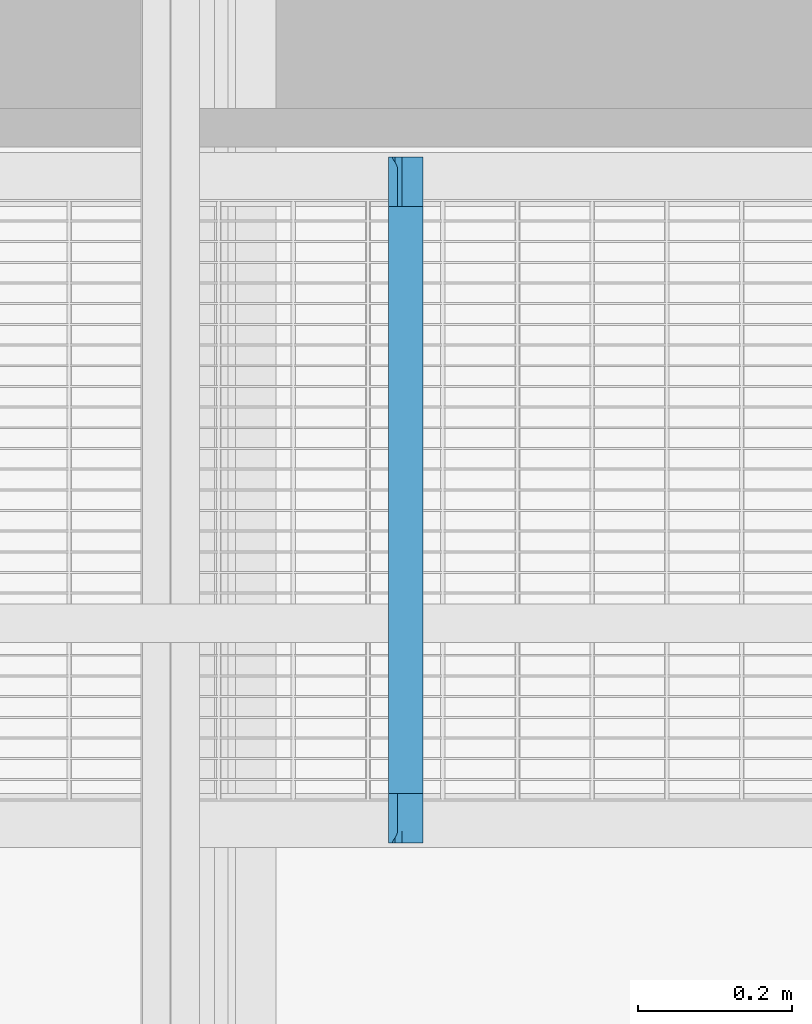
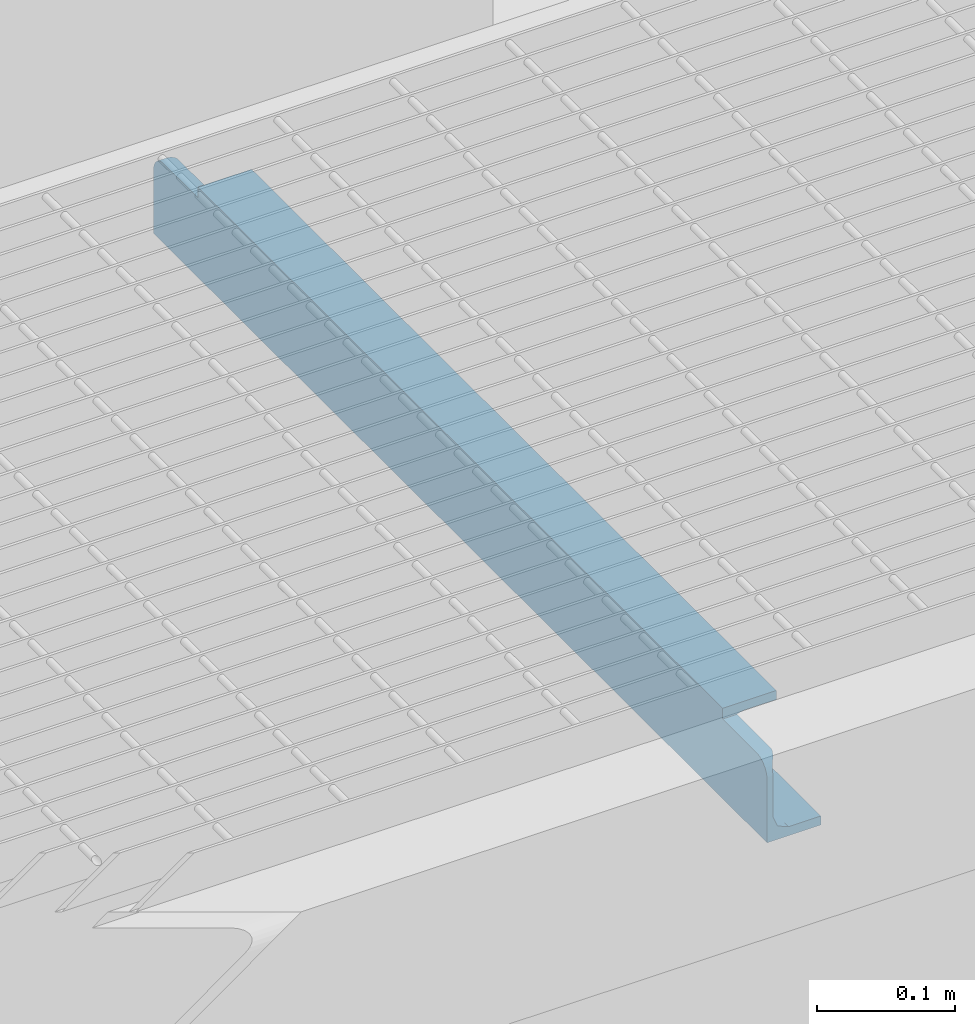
# One storey, part 53 of 75: 1 beam.
"""IFC2X3 building model written with IfcOpenShell, lengths in metres."""

from ifc_helpers import new_model, entity, si_unit, converted_unit, derived_unit, direction, frame, origin, place, context, subcontext, project, spatial, faceted_brep, material, type_object, element, save


model = new_model("IFC2X3")

# Units and contexts
model_context = context("Model", 3, precision=1e-05, world=origin(), true_north=direction((6.12303176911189e-17, 1.0)))
body_context = subcontext(model_context, "Body", "Model", "MODEL_VIEW")
ifc_project = project(units=[si_unit("LENGTHUNIT", "METRE"), si_unit("AREAUNIT", "SQUARE_METRE"), si_unit("VOLUMEUNIT", "CUBIC_METRE"), converted_unit("PLANEANGLEUNIT", "DEGREE", entity("IfcRatioMeasure", 0.0174532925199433), si_unit("PLANEANGLEUNIT", "RADIAN"), dimensions=[0, 0, 0, 0, 0, 0, 0]), si_unit("MASSUNIT", "GRAM", prefix="KILO"), derived_unit("MASSDENSITYUNIT", [(si_unit("MASSUNIT", "GRAM", prefix="KILO"), 1), (si_unit("LENGTHUNIT", "METRE"), -3)]), derived_unit("MOMENTOFINERTIAUNIT", [(si_unit("LENGTHUNIT", "METRE"), 4)]), si_unit("TIMEUNIT", "SECOND"), si_unit("FREQUENCYUNIT", "HERTZ"), si_unit("THERMODYNAMICTEMPERATUREUNIT", "DEGREE_CELSIUS"), derived_unit("THERMALTRANSMITTANCEUNIT", [(si_unit("MASSUNIT", "GRAM", prefix="KILO"), 1), (si_unit("THERMODYNAMICTEMPERATUREUNIT", "KELVIN"), -1), (si_unit("TIMEUNIT", "SECOND"), -3)]), derived_unit("VOLUMETRICFLOWRATEUNIT", [(si_unit("LENGTHUNIT", "METRE"), 3), (si_unit("TIMEUNIT", "SECOND"), -1)]), si_unit("ELECTRICCURRENTUNIT", "AMPERE"), si_unit("ELECTRICVOLTAGEUNIT", "VOLT"), si_unit("POWERUNIT", "WATT"), si_unit("FORCEUNIT", "NEWTON", prefix="KILO"), si_unit("ILLUMINANCEUNIT", "LUX"), si_unit("LUMINOUSFLUXUNIT", "LUMEN"), si_unit("LUMINOUSINTENSITYUNIT", "CANDELA"), derived_unit("USERDEFINED", [(si_unit("MASSUNIT", "GRAM", prefix="KILO"), -1), (si_unit("LENGTHUNIT", "METRE"), -2), (si_unit("TIMEUNIT", "SECOND"), 3), (si_unit("LUMINOUSFLUXUNIT", "LUMEN"), 1)]), derived_unit("LINEARVELOCITYUNIT", [(si_unit("LENGTHUNIT", "METRE"), 1), (si_unit("TIMEUNIT", "SECOND"), -1)]), si_unit("PRESSUREUNIT", "PASCAL"), derived_unit("USERDEFINED", [(si_unit("LENGTHUNIT", "METRE"), -2), (si_unit("MASSUNIT", "GRAM", prefix="KILO"), 1), (si_unit("TIMEUNIT", "SECOND"), -2)]), derived_unit("LINEARFORCEUNIT", [(si_unit("MASSUNIT", "GRAM", prefix="KILO"), 1), (si_unit("LENGTHUNIT", "METRE"), 1), (si_unit("TIMEUNIT", "SECOND"), -2), (si_unit("LENGTHUNIT", "METRE"), -1)]), derived_unit("PLANARFORCEUNIT", [(si_unit("MASSUNIT", "GRAM", prefix="KILO"), 1), (si_unit("LENGTHUNIT", "METRE"), 1), (si_unit("TIMEUNIT", "SECOND"), -2), (si_unit("LENGTHUNIT", "METRE"), -2)])], contexts=[model_context])

# Site, building, storey
site_placement = place(None, origin())
site = spatial("IfcSite", under=ifc_project, at=site_placement, Name="Superficie", CompositionType="ELEMENT")
building_placement = place(site_placement, origin())
building = spatial("IfcBuilding", under=site, at=building_placement, Name="Telegestiones", CompositionType="ELEMENT")
storey_placement = place(building_placement, origin())
storey = spatial("IfcBuildingStorey", under=building, at=storey_placement, Name="Nivel 0_NPT", CompositionType="ELEMENT", Elevation=0.0)

# Beam
ifc_material = material(Name="Metal - Acero - 345 MPa")
beam_type = type_object("IfcBeamType", Name="U-Canales de ala paralela:UAP80", PredefinedType="NOTDEFINED")
beam_placement = place(storey_placement, frame((13.8142897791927, 12.7898119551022, 17.78), z_axis=(0.0, 0.0, 1.0), x_axis=(0.0, -1.0, 0.0)))
element("IfcBeam", 1, at=beam_placement, inside=storey, type_object=beam_type, material=ifc_material, Name="U-Canales de ala paralela:UAP80", ObjectType="U-Canales de ala paralela:UAP80", context=body_context, shape_type="Brep", body=[
    faceted_brep([(-0.00159527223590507, 0.0450000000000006, 0.0), (-0.00159527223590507, 0.0450000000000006, 0.00799999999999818), (-0.00159527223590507, 0.0180000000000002, 0.00799999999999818), (-0.00159527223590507, 0.0140667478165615, 0.00962920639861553), (-0.00159527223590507, 0.0114371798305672, 0.0107184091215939), (-0.00159527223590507, 0.00880761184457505, 0.0118076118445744), (-0.00159527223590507, 0.00785570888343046, 0.014105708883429), (-0.00159527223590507, 0.00690380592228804, 0.0164038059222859), (-0.00159527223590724, 0.00595190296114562, 0.0187019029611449), (-0.00159527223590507, 0.00500000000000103, 0.0209999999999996), (-0.00159527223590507, 0.00500000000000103, 0.0579413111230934), (-0.00159527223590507, 0.0, 0.0579413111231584), (-0.00159527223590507, 0.0, 0.0), (-0.890595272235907, 0.0180000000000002, 0.00799999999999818), (-0.890595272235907, 0.0450000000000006, 0.00799999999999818), (-0.890595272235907, 0.0450000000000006, 0.0), (-0.890595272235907, 0.0, 0.0), (-0.890595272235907, 0.0, 0.0579413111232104), (-0.890595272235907, 0.00500000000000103, 0.0579413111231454), (-0.890595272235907, 0.00500000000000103, 0.0209999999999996), (-0.890595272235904, 0.00581460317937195, 0.0190333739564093), (-0.890595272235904, 0.00690380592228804, 0.0164038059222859), (-0.890595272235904, 0.00785570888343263, 0.0141057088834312), (-0.890595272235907, 0.00880761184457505, 0.0118076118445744), (-0.890595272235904, 0.0111057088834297, 0.0108557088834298), (-0.890595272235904, 0.0134038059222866, 0.00990380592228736), (-0.890595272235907, 0.0160333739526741, 0.00881460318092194), (-0.826295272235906, 0.0, 0.0799999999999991), (-0.0658952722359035, 0.0, 0.0799999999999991), (-0.0658952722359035, 0.0450000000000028, 0.0799999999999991), (-0.826295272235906, 0.0450000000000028, 0.0799999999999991), (-0.0658952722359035, 0.0450000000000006, 0.0719999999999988), (-0.826295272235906, 0.0450000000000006, 0.0719999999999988), (-0.0658952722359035, 0.0180000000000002, 0.0719999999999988), (-0.128842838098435, 0.0180000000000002, 0.0719999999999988), (-0.194304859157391, 0.0180000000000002, 0.0719999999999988), (-0.322714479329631, 0.0180000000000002, 0.0719999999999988), (-0.448609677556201, 0.0180000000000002, 0.072000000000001), (-0.57450487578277, 0.0180000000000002, 0.072000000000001), (-0.700400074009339, 0.0180000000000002, 0.0719999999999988), (-0.763347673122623, 0.0180000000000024, 0.0719999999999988), (-0.826295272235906, 0.0180000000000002, 0.0719999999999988), (-0.125338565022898, 0.00873473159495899, 0.0681189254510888), (-0.00990097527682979, 0.00971902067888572, 0.069021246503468), (-0.0072220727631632, 0.00805140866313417, 0.0673681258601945), (-0.544296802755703, 0.00667192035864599, 0.0653776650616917), (-0.463738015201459, 0.00590908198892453, 0.0637759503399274), (-0.537050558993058, 0.00560250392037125, 0.0629117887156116), (-0.792641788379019, 0.00525335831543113, 0.0615540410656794), (-0.794133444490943, 0.00500000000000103, 0.0589999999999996), (-0.890381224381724, 0.00500000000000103, 0.0589999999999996), (-0.0658952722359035, 0.0119378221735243, 0.0705000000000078), (-0.138679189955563, 0.0108749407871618, 0.0698735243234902), (-0.289684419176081, 0.00818591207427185, 0.0675254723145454), (-0.235689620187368, 0.00983678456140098, 0.0691174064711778), (-0.221438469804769, 0.00711297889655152, 0.0661044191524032), (-0.828358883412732, 0.00588467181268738, 0.0637136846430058), (-0.754190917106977, 0.0058648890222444, 0.063662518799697), (-0.122570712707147, 0.00586898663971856, 0.0636731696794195), (-0.00489743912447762, 0.00653775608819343, 0.0651332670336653), (-0.00303111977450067, 0.00542889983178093, 0.0623117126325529), (-0.139747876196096, 0.0133736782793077, 0.0711489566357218), (-0.0658952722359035, 0.0148775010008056, 0.0716194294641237), (-0.826295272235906, 0.0148775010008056, 0.0716194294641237), (-0.725006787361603, 0.007054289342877, 0.0660136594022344), (-0.806159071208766, 0.007190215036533, 0.066221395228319), (-0.751188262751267, 0.00871967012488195, 0.0681035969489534), (-0.821741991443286, 0.00878771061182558, 0.0681724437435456), (-0.73187387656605, 0.0157137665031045, 0.0717973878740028), (-0.656388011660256, 0.0158751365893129, 0.0718251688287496), (-0.887293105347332, 0.00653775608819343, 0.0651332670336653), (-0.884968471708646, 0.00805140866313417, 0.0673681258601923), (-0.153427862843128, 0.00681728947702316, 0.0656292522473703), (-0.0851009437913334, 0.0070865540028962, 0.0660637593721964), (-0.223870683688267, 0.00557806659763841, 0.0628334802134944), (-0.324805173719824, 0.006859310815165, 0.0656996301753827), (-0.889159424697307, 0.00542889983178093, 0.0623117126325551), (-0.0163952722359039, 0.01193782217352, 0.0705000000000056), (-0.0129474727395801, 0.0112305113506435, 0.0700983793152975), (-0.875795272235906, 0.0119378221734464, 0.0704999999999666), (-0.826295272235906, 0.0119378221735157, 0.0705000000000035), (-0.879243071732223, 0.0112305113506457, 0.0700983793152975), (-0.399380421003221, 0.00536884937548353, 0.0620747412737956), (-0.392844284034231, 0.00621995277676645, 0.0644982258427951), (-0.226457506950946, 0.0133736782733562, 0.0711489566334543), (-0.161573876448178, 0.0157225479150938, 0.0717989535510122), (-0.753454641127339, 0.0133736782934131, 0.0711489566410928), (-0.667605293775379, 0.0133736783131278, 0.0711489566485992), (-0.710529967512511, 0.0108989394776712, 0.069889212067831), (-0.882289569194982, 0.00971902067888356, 0.0690212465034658), (-0.390878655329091, 0.0147556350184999, 0.0715886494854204), (-0.511557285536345, 0.0147219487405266, 0.0715799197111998), (-0.447031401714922, 0.0116878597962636, 0.0703647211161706), (-0.155170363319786, 0.00522625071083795, 0.0614148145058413), (-0.0800317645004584, 0.00520855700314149, 0.0613192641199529), (-0.127704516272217, 0.00500000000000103, 0.0589999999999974), (-0.717894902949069, 0.00523967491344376, 0.0614847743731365), (-0.664463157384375, 0.00890351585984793, 0.0682873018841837), (-0.313627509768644, 0.0152996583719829, 0.0717164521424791), (-0.236434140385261, 0.0158580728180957, 0.0718223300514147), (-0.566912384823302, 0.011307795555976, 0.0701451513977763), (-0.449725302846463, 0.007164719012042, 0.066183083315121), (-0.330812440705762, 0.01176120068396, 0.0704051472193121), (-0.00180932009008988, 0.00500000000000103, 0.0589999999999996), (-0.374471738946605, 0.00795566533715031, 0.0672529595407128), (-0.339661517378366, 0.00960203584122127, 0.0689234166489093), (-0.495596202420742, 0.00856943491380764, 0.0679478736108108), (-0.419471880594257, 0.00955595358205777, 0.0688842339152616), (-0.591250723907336, 0.0142535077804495, 0.0714484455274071), (-0.637492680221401, 0.0107328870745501, 0.0697791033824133), (-0.580926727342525, 0.00847032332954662, 0.0678422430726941), (-0.614751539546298, 0.00554163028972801, 0.0627133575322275), (-0.479182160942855, 0.00521908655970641, 0.0613766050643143), (-0.636794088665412, 0.00709380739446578, 0.0660749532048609), (-0.601637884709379, 0.00500000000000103, 0.0589999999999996), (-0.697885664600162, 0.00500000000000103, 0.0589999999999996), (-0.682036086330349, 0.00583156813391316, 0.0635748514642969), (-0.505390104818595, 0.00500000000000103, 0.0589999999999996), (-0.327009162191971, 0.00576169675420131, 0.0633845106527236), (-0.253599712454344, 0.00500000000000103, 0.0589999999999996), (-0.379494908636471, 0.00500000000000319, 0.0589999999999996), (-0.890497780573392, 0.00500000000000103, 0.058472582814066), (-0.00169276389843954, 0.00500000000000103, 0.0584725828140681), (-0.127490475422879, 0.00499999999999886, 0.0209999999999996), (-0.253385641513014, 0.00500000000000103, 0.0209999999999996), (-0.349740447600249, 0.00500000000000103, 0.0209999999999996), (-0.446095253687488, 0.00500000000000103, 0.0209999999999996), (-0.557220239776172, 0.00500000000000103, 0.0209999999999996), (-0.668345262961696, 0.00499999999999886, 0.0209999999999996), (-0.764700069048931, 0.00499999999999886, 0.0209999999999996), (-0.0794870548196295, 0.00972190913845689, 0.0109763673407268), (-0.435997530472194, 0.00556213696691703, 0.0172185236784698), (-0.373294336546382, 0.00522987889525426, 0.0185660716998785), (-0.639580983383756, 0.0053531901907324, 0.0179903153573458), (-0.63263272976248, 0.00637757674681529, 0.0151759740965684), (-0.71652267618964, 0.00574745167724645, 0.0166554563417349), (-0.449211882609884, 0.012354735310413, 0.00928970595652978), (-0.320388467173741, 0.0113965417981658, 0.00980203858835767), (-0.338837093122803, 0.0147439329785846, 0.00841437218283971), (-0.524503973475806, 0.0144490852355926, 0.00849436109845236), (-0.512909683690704, 0.0180000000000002, 0.00799999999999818), (-0.601869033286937, 0.0154448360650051, 0.00825358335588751), (-0.403832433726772, 0.00939162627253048, 0.011258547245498), (-0.673005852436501, 0.0104857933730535, 0.0103916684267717), (-0.573219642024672, 0.0105107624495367, 0.0103740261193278), (-0.608382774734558, 0.0127204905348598, 0.00912032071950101), (-0.55722027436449, 0.00560622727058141, 0.0170764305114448), (-0.300537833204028, 0.00846054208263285, 0.0121683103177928), (-0.726955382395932, 0.0139509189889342, 0.00864666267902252), (-0.764700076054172, 0.0180000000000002, 0.00800000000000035), (-0.813619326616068, 0.0144028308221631, 0.00850758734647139), (-0.207094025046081, 0.00538630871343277, 0.0178544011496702), (-0.301563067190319, 0.00537533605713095, 0.017898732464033), (-0.349740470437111, 0.00647967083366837, 0.0149765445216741), (-0.150052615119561, 0.0110865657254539, 0.00999071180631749), (-0.0758239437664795, 0.0123642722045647, 0.00928511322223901), (-0.153439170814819, 0.00630537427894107, 0.0153223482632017), (-0.088095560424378, 0.00767465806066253, 0.0131014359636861), (-0.183268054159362, 0.0083334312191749, 0.0123076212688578), (-0.2360593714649, 0.0108404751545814, 0.0101491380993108), (-0.118743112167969, 0.00535692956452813, 0.0179746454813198), (-0.0782307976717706, 0.00607386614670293, 0.0158262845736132), (-0.251391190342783, 0.0134664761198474, 0.00881611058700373), (-0.0763306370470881, 0.0152252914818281, 0.00829956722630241), (-0.160897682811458, 0.0144821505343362, 0.00848501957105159), (-0.127490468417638, 0.0180000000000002, 0.00800000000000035), (-0.194304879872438, 0.0180000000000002, 0.00799999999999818), (-0.290659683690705, 0.0180000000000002, 0.00799999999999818), (-0.387014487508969, 0.0180000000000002, 0.00800000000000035), (-0.27464879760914, 0.0156603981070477, 0.00821226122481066), (-0.428012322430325, 0.0152285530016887, 0.00829885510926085), (-0.512909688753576, 0.00904802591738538, 0.0115733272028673), (-0.544443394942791, 0.00701878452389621, 0.0140420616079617), (-0.607082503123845, 0.00857249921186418, 0.0120488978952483), (-0.785766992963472, 0.00998354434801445, 0.0107659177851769), (-0.700833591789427, 0.00807841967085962, 0.0125998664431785), (-0.638804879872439, 0.0180000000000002, 0.00799999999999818), (-0.802846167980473, 0.00747715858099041, 0.0133665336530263), (-0.807175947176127, 0.00550758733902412, 0.0174028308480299), (-0.447339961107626, 0.00719760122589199, 0.0137675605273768), (-0.251589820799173, 0.00639123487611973, 0.0151487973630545), (-0.369128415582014, 0.00783049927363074, 0.0129017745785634), (-0.698574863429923, 0.00670885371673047, 0.0145571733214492), (-0.821923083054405, 0.0119518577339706, 0.00949261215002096), (-0.0163952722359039, 0.0, 0.0705000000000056), (-0.0658952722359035, 0.0, 0.0705000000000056), (-0.826295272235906, 0.0, 0.0705000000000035), (-0.875795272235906, 0.0, 0.0705000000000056), (-0.879281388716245, 0.0, 0.0700892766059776), (-0.882576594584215, 0.0, 0.0688795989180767), (-0.885500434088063, 0.0, 0.0669372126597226), (-0.887892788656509, 0.0, 0.0643684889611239), (-0.88962264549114, 0.0, 0.0613140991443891), (-0.00256789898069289, 0.0, 0.0613140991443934), (-0.00429775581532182, 0.0, 0.0643684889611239), (-0.00669011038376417, 0.0, 0.0669372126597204), (-0.00961394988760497, 0.0, 0.0688795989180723), (-0.0129091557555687, 0.0, 0.0700892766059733)], [[[0, 1, 2, 3, 4, 5, 6, 7, 8, 9, 10, 11, 12]], [[13, 14, 15, 16, 17, 18, 19, 20, 21, 22, 23, 24, 25, 26]], [[27, 28, 29, 30]], [[30, 29, 31, 32]], [[14, 1, 0, 15]], [[32, 31, 33, 34, 35, 36, 37, 38, 39, 40, 41]], [[42, 43, 44]], [[45, 46, 47]], [[48, 49, 50]], [[51, 42, 52]], [[42, 51, 43]], [[53, 54, 55]], [[56, 57, 48]], [[58, 59, 60]], [[51, 61, 62]], [[34, 33, 62]], [[41, 40, 63]], [[64, 65, 66]], [[66, 65, 67]], [[42, 55, 54]], [[68, 39, 69]], [[65, 70, 71]], [[68, 40, 39]], [[72, 73, 58]], [[74, 75, 55]], [[70, 56, 76]], [[77, 78, 51]], [[79, 80, 81]], [[82, 46, 83]], [[52, 61, 51]], [[84, 85, 61]], [[44, 73, 42]], [[86, 87, 88]], [[86, 80, 63]], [[80, 89, 81]], [[37, 36, 90]], [[58, 73, 59]], [[71, 89, 67]], [[91, 90, 92]], [[93, 94, 95]], [[80, 67, 89]], [[48, 57, 96]], [[78, 43, 51]], [[88, 97, 66]], [[98, 36, 99]], [[58, 60, 94]], [[91, 92, 100]], [[46, 101, 83]], [[70, 65, 56]], [[99, 85, 84]], [[57, 65, 64]], [[71, 67, 65]], [[66, 67, 80]], [[54, 102, 84]], [[48, 96, 49]], [[103, 94, 60]], [[53, 104, 105]], [[106, 100, 92]], [[55, 75, 53]], [[92, 90, 102]], [[102, 105, 107]], [[69, 38, 108]], [[38, 37, 91]], [[100, 108, 91]], [[109, 88, 87]], [[105, 104, 107]], [[110, 109, 100]], [[47, 111, 45]], [[45, 110, 106]], [[112, 46, 82]], [[62, 85, 34]], [[54, 84, 52]], [[66, 80, 88]], [[86, 63, 68]], [[86, 88, 80]], [[66, 97, 64]], [[113, 97, 110]], [[97, 88, 109]], [[113, 110, 45]], [[106, 110, 100]], [[114, 115, 111]], [[101, 46, 45]], [[45, 111, 113]], [[57, 116, 96]], [[117, 114, 47]], [[98, 99, 84]], [[37, 90, 91]], [[48, 50, 76]], [[72, 58, 74]], [[61, 52, 84]], [[52, 42, 54]], [[57, 64, 116]], [[113, 64, 97]], [[35, 34, 85]], [[99, 35, 85]], [[61, 85, 62]], [[99, 36, 35]], [[90, 36, 98]], [[68, 69, 87]], [[40, 68, 63]], [[86, 68, 87]], [[87, 69, 108]], [[69, 39, 38]], [[87, 108, 100]], [[91, 108, 38]], [[112, 47, 46]], [[118, 119, 120]], [[57, 56, 65]], [[56, 48, 76]], [[115, 49, 96]], [[96, 111, 115]], [[111, 96, 116]], [[116, 113, 111]], [[113, 116, 64]], [[97, 109, 110]], [[100, 109, 87]], [[74, 119, 118]], [[95, 119, 93]], [[111, 47, 114]], [[117, 47, 112]], [[112, 120, 117]], [[83, 118, 82]], [[82, 120, 112]], [[82, 118, 120]], [[118, 83, 75]], [[101, 107, 104]], [[83, 101, 104]], [[106, 101, 45]], [[59, 73, 44]], [[55, 42, 72]], [[73, 72, 42]], [[55, 72, 74]], [[58, 94, 93]], [[95, 94, 103]], [[93, 74, 58]], [[74, 93, 119]], [[102, 54, 105]], [[104, 53, 75]], [[53, 105, 54]], [[92, 102, 107]], [[107, 106, 92]], [[106, 107, 101]], [[104, 75, 83]], [[74, 118, 75]], [[98, 102, 90]], [[102, 98, 84]], [[19, 18, 121, 50, 49, 115, 114, 117, 120, 119, 95, 103, 122, 10, 9, 123, 124, 125, 126, 127, 128, 129]], [[4, 130, 5]], [[131, 126, 132]], [[133, 134, 135]], [[136, 137, 138]], [[139, 140, 141]], [[142, 137, 136]], [[143, 144, 145]], [[127, 146, 133]], [[137, 142, 147]], [[148, 149, 150]], [[124, 123, 151]], [[152, 153, 132]], [[154, 130, 155]], [[156, 157, 158]], [[137, 147, 159]], [[160, 161, 156]], [[162, 138, 137]], [[162, 137, 159]], [[163, 3, 2]], [[154, 162, 159]], [[3, 163, 155]], [[164, 165, 166]], [[167, 168, 138]], [[166, 169, 164]], [[164, 169, 162]], [[170, 139, 136]], [[136, 144, 171]], [[138, 170, 136]], [[168, 170, 138]], [[172, 171, 173]], [[145, 148, 143]], [[172, 146, 131]], [[128, 135, 129]], [[143, 174, 175]], [[141, 176, 148]], [[174, 23, 177]], [[129, 178, 20]], [[21, 178, 177]], [[20, 178, 21]], [[179, 171, 172]], [[172, 134, 146]], [[142, 171, 179]], [[138, 162, 169]], [[164, 162, 154]], [[159, 158, 154]], [[158, 147, 180]], [[158, 159, 147]], [[181, 142, 179]], [[5, 130, 157]], [[180, 156, 158]], [[147, 142, 181]], [[171, 142, 136]], [[153, 179, 131]], [[172, 131, 179]], [[125, 124, 152]], [[126, 131, 146]], [[180, 152, 151]], [[125, 152, 132]], [[153, 152, 180]], [[153, 180, 147]], [[160, 156, 151]], [[156, 180, 151]], [[161, 6, 157]], [[151, 152, 124]], [[8, 160, 123]], [[123, 160, 151]], [[161, 8, 7, 6]], [[134, 133, 146]], [[173, 134, 172]], [[134, 182, 135]], [[175, 134, 173]], [[175, 173, 143]], [[173, 171, 144]], [[174, 177, 175]], [[176, 149, 148]], [[143, 148, 174]], [[26, 150, 149]], [[183, 24, 174]], [[150, 25, 183]], [[182, 175, 177]], [[22, 21, 177, 23]], [[154, 158, 130]], [[127, 126, 146]], [[133, 135, 128]], [[156, 161, 157]], [[8, 123, 9]], [[20, 19, 129]], [[157, 130, 158]], [[4, 3, 155]], [[155, 163, 164]], [[4, 155, 130]], [[154, 155, 164]], [[163, 165, 164]], [[165, 163, 2]], [[139, 144, 136]], [[170, 168, 140]], [[145, 139, 141]], [[139, 170, 140]], [[173, 144, 143]], [[139, 145, 144]], [[145, 141, 148]], [[176, 141, 140]], [[25, 150, 26]], [[149, 13, 26]], [[174, 148, 183]], [[150, 183, 148]], [[23, 174, 24]], [[183, 25, 24]], [[178, 135, 177]], [[135, 178, 129]], [[169, 167, 138]], [[127, 133, 128]], [[167, 169, 166]], [[181, 153, 147]], [[153, 181, 179]], [[125, 132, 126]], [[131, 132, 153]], [[160, 8, 161]], [[135, 182, 177]], [[182, 134, 175]], [[6, 5, 157]], [[1, 14, 13, 149, 176, 140, 168, 167, 166, 165, 2]], [[15, 0, 12, 16]], [[184, 185, 28, 27, 186, 187, 188, 189, 190, 191, 192, 17, 16, 12, 11, 193, 194, 195, 196, 197]], [[51, 62, 33, 31, 29, 28, 185]], [[77, 51, 185, 184]], [[80, 79, 187, 186]], [[78, 184, 197]], [[43, 197, 196]], [[44, 196, 195]], [[77, 184, 78]], [[78, 197, 43]], [[196, 44, 43]], [[195, 59, 44]], [[60, 194, 193]], [[193, 11, 103]], [[10, 122, 11]], [[60, 59, 194]], [[122, 103, 11]], [[60, 193, 103]], [[194, 59, 195]], [[17, 50, 121]], [[50, 17, 192]], [[50, 192, 76]], [[76, 192, 191]], [[121, 18, 17]], [[70, 76, 191]], [[191, 190, 70]], [[71, 190, 189]], [[189, 188, 89]], [[187, 81, 188]], [[71, 189, 89]], [[81, 89, 188]], [[79, 81, 187]], [[190, 71, 70]], [[80, 186, 27, 30, 32, 41, 63]]]),
])

save(model, "model.ifc")
